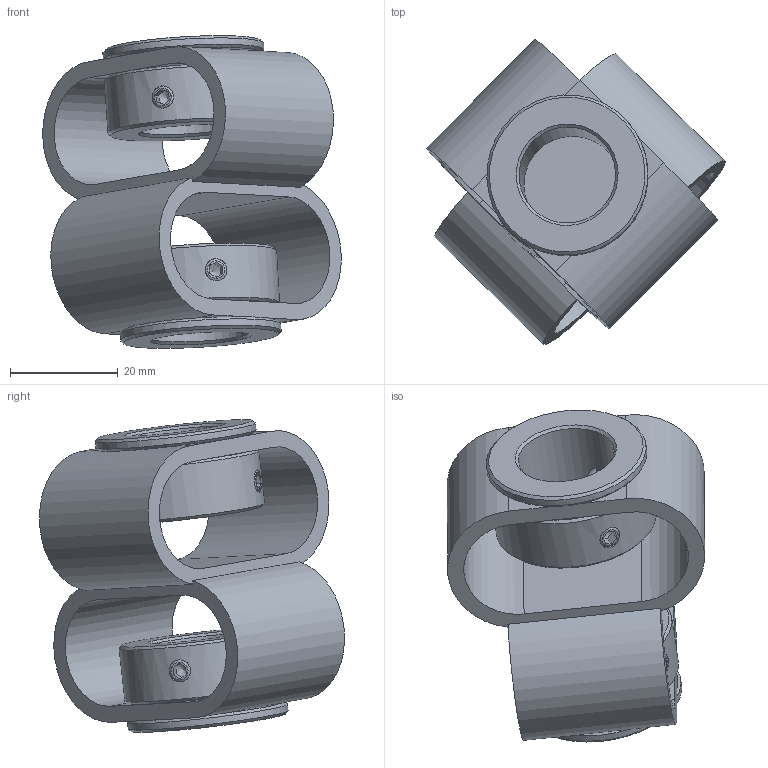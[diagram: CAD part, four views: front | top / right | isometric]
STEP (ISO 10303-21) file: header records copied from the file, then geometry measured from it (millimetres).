
FILE_DESCRIPTION(/* description */ (''),/* implementation_level */ '2;1');
FILE_NAME(/* name */ 'E:\ABP_bauteile\Doppelschlaufenkupplung\DKPS_5658\Doppelschlaufenkupplung_DKPS_5658_18_18.stp',/* time_stamp */ '2015-03-13T11:57:43+01:00',/* author */ ('Rob'),/* organization */ (''),/* preprocessor_version */ 'ST-DEVELOPER v15.6',/* originating_system */ 'Autodesk Inventor 2015',/* authorisation */ '');
FILE_SCHEMA (('CONFIG_CONTROL_DESIGN'));
Length unit declared in the file: millimetre
Products named in the file (1): Bauteil62
Bounding box: 55.53 x 56.74 x 58.16 mm (x, y, z)
Volume: 28526 mm3; surface area: 18010.7 mm2
Topology: 1 solids, 1 shells, 142 faces, 360 edges, 218 vertices
Faces by surface type: plane 84, cone 30, cylinder 28
Full cylindrical faces by diameter (mm): 4.134 x8, 18 x2, 21.5 x2, 23 x4, 30 x4
Entity records: 4088 total; most frequent: CARTESIAN_POINT 1027, DIRECTION 646, ORIENTED_EDGE 556, EDGE_CURVE 278, AXIS2_PLACEMENT_3D 257, EDGE_LOOP 210, VERTEX_POINT 182, FACE_OUTER_BOUND 142
